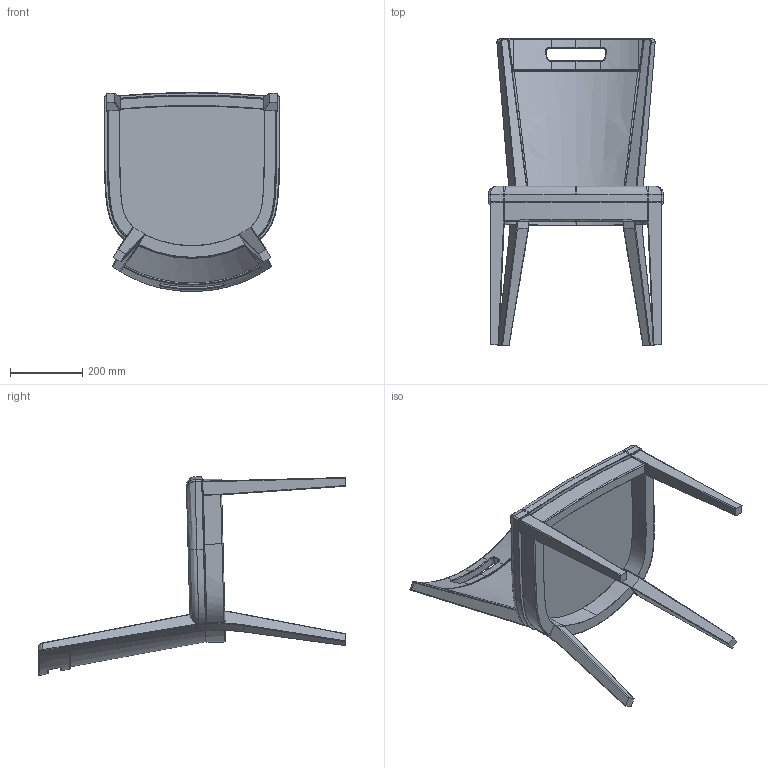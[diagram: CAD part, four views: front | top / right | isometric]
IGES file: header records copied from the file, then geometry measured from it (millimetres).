
Start section: SolidWorks IGES file using analytic representation for surfaces
Global section: file name: C:\Users\adao\Documents\Trab Adao\Desenho técnico PRODUÇÃO\J M S\Catalogo SIANA\BEATRICE\Cadeira\3D cadeira\3D Cadeira BEATRICE SG-1091.IGS; native system: SolidWorks 2021; preprocessor: SolidWorks 2021; author: Adao; date: 220401.180233; units: millimetre
Bounding box: 484.12 x 848.27 x 550.48 mm (x, y, z)
Surface area: 1308835.9 mm2 (no closed solid volume)
Topology: 0 solids, 0 shells, 298 faces, 2874 edges, 2861 vertices
Faces by surface type: bspline 179, revolution 119
